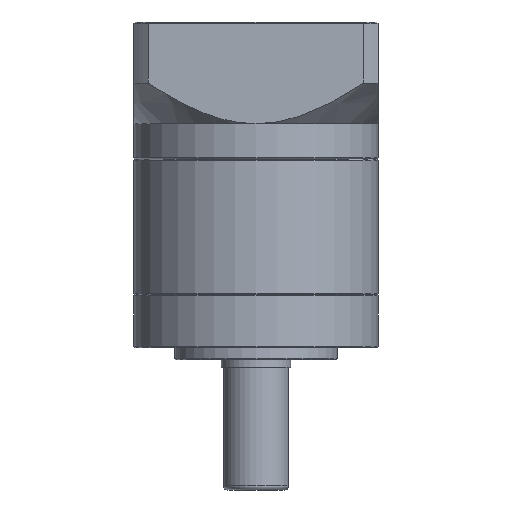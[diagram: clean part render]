
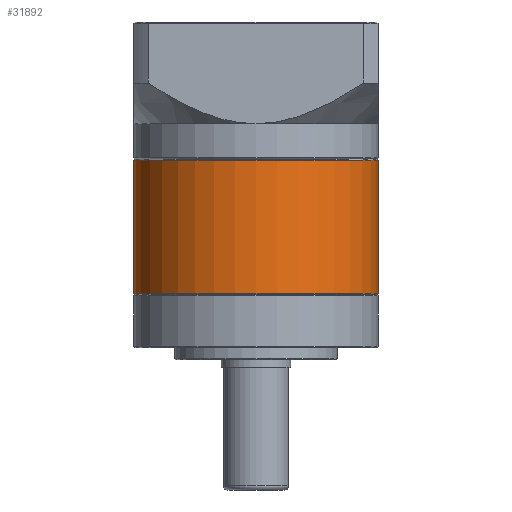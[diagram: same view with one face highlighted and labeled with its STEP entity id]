
A CAD part, front view. The second image highlights one B-rep face of the part: STEP entity #31892.
In plain terms, the highlighted cylindrical face has radius 30 mm (diameter 60 mm), a partial arc.
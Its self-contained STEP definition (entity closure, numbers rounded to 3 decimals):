
#829 = CARTESIAN_POINT ( 'NONE',  ( 6.924, 36.691, -78.366 ) ) ;
#7059 = DIRECTION ( 'NONE',  ( 0., 0., -1. ) ) ;
#9254 = DIRECTION ( 'NONE',  ( 0., 0., -1. ) ) ;
#11301 = ORIENTED_EDGE ( 'NONE', *, *, #49943, .T. ) ;
#12826 = CARTESIAN_POINT ( 'NONE',  ( 6.924, 36.691, -45.566 ) ) ;
#12867 = EDGE_CURVE ( 'NONE', #73377, #68642, #93943, .T. ) ;
#13040 = CARTESIAN_POINT ( 'NONE',  ( -53.076, 36.691, -78.366 ) ) ;
#14055 = EDGE_CURVE ( 'NONE', #68642, #54405, #40790, .T. ) ;
#17506 = FACE_OUTER_BOUND ( 'NONE', #71809, .T. ) ;
#21941 = LINE ( 'NONE', #113566, #45544 ) ;
#27888 = CARTESIAN_POINT ( 'NONE',  ( -23.076, 36.691, -45.566 ) ) ;
#31892 = ADVANCED_FACE ( 'NONE', ( #17506 ), #99343, .T. ) ;
#32035 = CARTESIAN_POINT ( 'NONE',  ( -23.076, 36.691, -78.366 ) ) ;
#32875 = CARTESIAN_POINT ( 'NONE',  ( -53.076, 36.691, -45.316 ) ) ;
#40114 = ORIENTED_EDGE ( 'NONE', *, *, #14055, .T. ) ;
#40790 = LINE ( 'NONE', #32875, #53288 ) ;
#43564 = DIRECTION ( 'NONE',  ( -1., 0., 0. ) ) ;
#45544 = VECTOR ( 'NONE', #60532, 1000. ) ;
#47384 = VERTEX_POINT ( 'NONE', #829 ) ;
#48860 = CIRCLE ( 'NONE', #82491, 30. ) ;
#49943 = EDGE_CURVE ( 'NONE', #54405, #47384, #48860, .T. ) ;
#53288 = VECTOR ( 'NONE', #103806, 1000. ) ;
#54405 = VERTEX_POINT ( 'NONE', #13040 ) ;
#60532 = DIRECTION ( 'NONE',  ( 0., 0., -1. ) ) ;
#62399 = DIRECTION ( 'NONE',  ( 1., 0., 0. ) ) ;
#68642 = VERTEX_POINT ( 'NONE', #95288 ) ;
#71809 = EDGE_LOOP ( 'NONE', ( #87786, #89770, #40114, #11301 ) ) ;
#73377 = VERTEX_POINT ( 'NONE', #12826 ) ;
#80244 = EDGE_CURVE ( 'NONE', #73377, #47384, #21941, .T. ) ;
#82491 = AXIS2_PLACEMENT_3D ( 'NONE', #32035, #104525, #103716 ) ;
#87786 = ORIENTED_EDGE ( 'NONE', *, *, #80244, .F. ) ;
#89770 = ORIENTED_EDGE ( 'NONE', *, *, #12867, .T. ) ;
#93943 = CIRCLE ( 'NONE', #114076, 30. ) ;
#95288 = CARTESIAN_POINT ( 'NONE',  ( -53.076, 36.691, -45.566 ) ) ;
#99343 = CYLINDRICAL_SURFACE ( 'NONE', #105381, 30. ) ;
#103716 = DIRECTION ( 'NONE',  ( 1., 0., 0. ) ) ;
#103806 = DIRECTION ( 'NONE',  ( 0., 0., -1. ) ) ;
#104525 = DIRECTION ( 'NONE',  ( 0., 0., 1. ) ) ;
#105211 = CARTESIAN_POINT ( 'NONE',  ( -23.076, 36.691, -45.316 ) ) ;
#105381 = AXIS2_PLACEMENT_3D ( 'NONE', #105211, #7059, #43564 ) ;
#113566 = CARTESIAN_POINT ( 'NONE',  ( 6.924, 36.691, -45.316 ) ) ;
#114076 = AXIS2_PLACEMENT_3D ( 'NONE', #27888, #9254, #62399 ) ;
